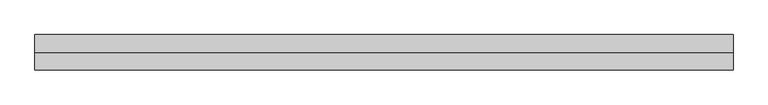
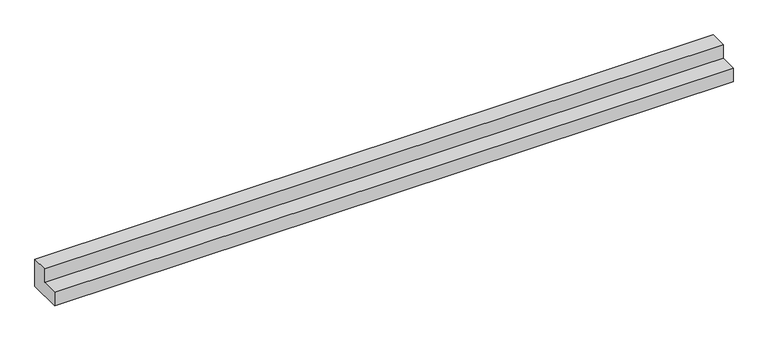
"""IFC4 building model written with IfcOpenShell, lengths in millimetres: proxy geometry, Arquibancada1 : Arquibancada."""

from ifc_helpers import new_model, si_unit, frame, origin, place, context, project, spatial, polyline, outline, extrude, source, transform, mapped, element, save


def generic_models_8b9096ce(model_context):
    return source(origin(), model_context, "Body", "SweptSolid", [
        extrude(outline(polyline([(43724.7120714, 377.0), (42524.7120714, 377.0), (42524.7120714, 877.0), (43124.7120714, 877.0), (43124.7120714, 1377.0), (43724.7120714, 1377.0), (43724.7120714, 377.0)])), frame((-38628.0705801, 0.0, 0.0), z_axis=(1.0, 0.0, 0.0), x_axis=(0.0, 1.0, 0.0)), (0.0, 0.0, 1.0), 23710.0),
    ])


if __name__ == "__main__":
    model = new_model("IFC4")
    model_context = context("Model", 3, world=origin())
    ifc_project = project(units=[si_unit("LENGTHUNIT", "METRE", prefix="MILLI")], contexts=[model_context])
    site = spatial("IfcSite", under=ifc_project)
    building = spatial("IfcBuilding", under=site)
    placement = place(None, origin())
    generic_models_shape = generic_models_8b9096ce(model_context)
    element("IfcBuildingElementProxy", 1, Name="Arquibancada1 : Arquibancada", ObjectType="Arquibancada1 : Arquibancada", at=placement, inside=building, context=model_context, shape_type="MappedRepresentation", body=[
        mapped(generic_models_shape, transform((0.0, 0.0, 0.0), x_axis=(1.0, 0.0, 0.0), y_axis=(0.0, 1.0, 0.0), z_axis=(0.0, 0.0, 1.0))),
    ])
    save(model, "model.ifc")
